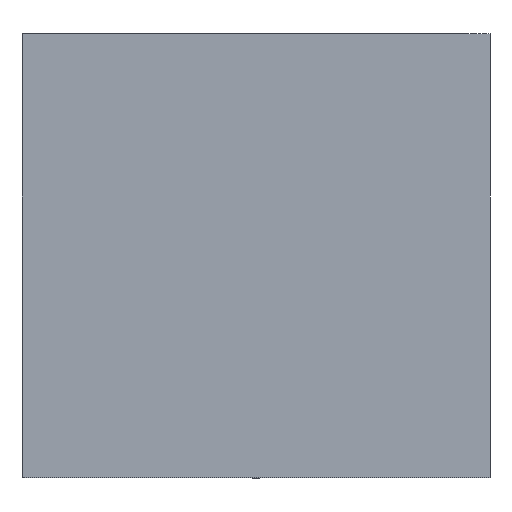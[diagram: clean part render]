
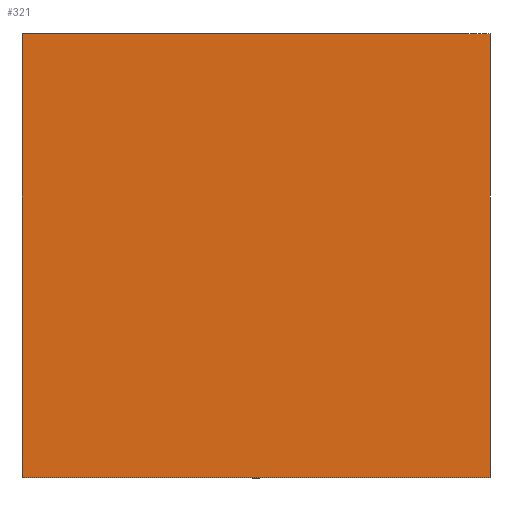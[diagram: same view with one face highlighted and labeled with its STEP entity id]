
A CAD part, left-side view. The second image highlights one B-rep face of the part: STEP entity #321.
In plain terms, the highlighted planar face has unit normal (-1, 0, 0).
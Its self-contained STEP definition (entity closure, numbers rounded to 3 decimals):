
#321 = ADVANCED_FACE( '', ( #694 ), #695, .T. );
#694 = FACE_OUTER_BOUND( '', #1090, .T. );
#695 = PLANE( '', #1091 );
#1090 = EDGE_LOOP( '', ( #1727, #1728, #1729, #1730 ) );
#1091 = AXIS2_PLACEMENT_3D( '', #1731, #1732, #1733 );
#1727 = ORIENTED_EDGE( '', *, *, #2056, .F. );
#1728 = ORIENTED_EDGE( '', *, *, #1895, .F. );
#1729 = ORIENTED_EDGE( '', *, *, #2053, .T. );
#1730 = ORIENTED_EDGE( '', *, *, #2064, .T. );
#1731 = CARTESIAN_POINT( '', ( -150., 150., -284.5 ) );
#1732 = DIRECTION( '', ( -1., 0., 0. ) );
#1733 = DIRECTION( '', ( 0., 1., 0. ) );
#1895 = EDGE_CURVE( '', #2179, #2175, #2181, .T. );
#2053 = EDGE_CURVE( '', #2179, #2412, #2413, .T. );
#2056 = EDGE_CURVE( '', #2175, #2416, #2417, .T. );
#2064 = EDGE_CURVE( '', #2412, #2416, #2427, .T. );
#2175 = VERTEX_POINT( '', #2559 );
#2179 = VERTEX_POINT( '', #2565 );
#2181 = LINE( '', #2568, #2569 );
#2412 = VERTEX_POINT( '', #2830 );
#2413 = LINE( '', #2831, #2832 );
#2416 = VERTEX_POINT( '', #2836 );
#2417 = LINE( '', #2837, #2838 );
#2427 = LINE( '', #2850, #2851 );
#2559 = CARTESIAN_POINT( '', ( -150., 150., 0. ) );
#2565 = CARTESIAN_POINT( '', ( -150., 150., -284.5 ) );
#2568 = CARTESIAN_POINT( '', ( -150., 150., -284.5 ) );
#2569 = VECTOR( '', #2954, 1000. );
#2830 = CARTESIAN_POINT( '', ( -150., -150., -284.5 ) );
#2831 = CARTESIAN_POINT( '', ( -150., -150., -284.5 ) );
#2832 = VECTOR( '', #3174, 1000. );
#2836 = CARTESIAN_POINT( '', ( -150., -150., 0. ) );
#2837 = CARTESIAN_POINT( '', ( -150., 150., 0. ) );
#2838 = VECTOR( '', #3176, 1000. );
#2850 = CARTESIAN_POINT( '', ( -150., -150., -284.5 ) );
#2851 = VECTOR( '', #3185, 1000. );
#2954 = DIRECTION( '', ( 0., 0., 1. ) );
#3174 = DIRECTION( '', ( 0., -1., 0. ) );
#3176 = DIRECTION( '', ( 0., -1., 0. ) );
#3185 = DIRECTION( '', ( 0., 0., 1. ) );
